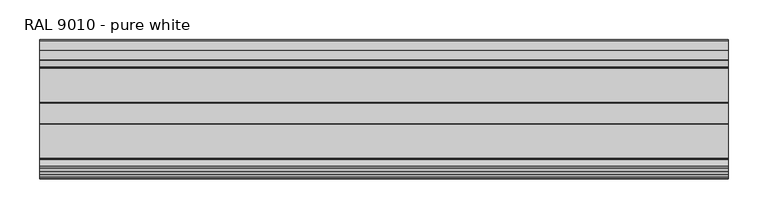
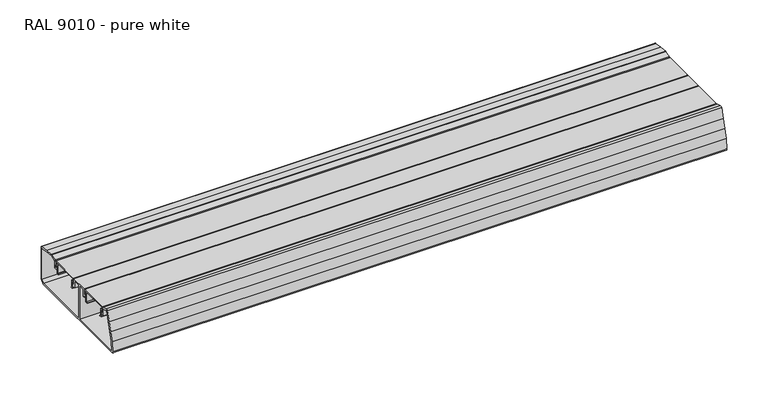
"""IFC4 building model written with IfcOpenShell, lengths in millimetres: proxy geometry, Electrical_Installations_Hager_GBD-Curved-Lid-End-Cap : RAL 9010 - pure white."""

from ifc_helpers import new_model, si_unit, point, frame, frame_2d, origin, place, context, project, spatial, polyline, circle_curve, trimmed, segment, composite_curve, outline, extrude, source, transform, mapped, element, save


def ral_9010_pure_white_6a0d687c(model_context):
    return source(origin(), model_context, "Body", "SweptSolid", [
        extrude(outline(composite_curve([segment(polyline([(-85.2368553, -25.0), (-6.25, -25.0), (-6.25, 25.0), (-15.95, 25.0), (-15.95, 14.96875), (-20.25, 14.96875), (-20.25, 18.7637258), (-19.25, 18.7637258), (-19.25, 16.3), (-17.75, 16.3), (-17.75, 27.0), (7.25, 27.0), (7.25, 16.3), (8.75, 16.3), (8.75, 18.7441115), (9.75, 18.7441115), (9.75, 14.5), (5.45, 14.5), (5.45, 25.0), (-4.25, 25.0), (-4.25, -25.0), (81.2473088, -25.0), (85.2, -21.0473088), (85.2, 25.0790901), (73.4084992, 26.7822965), (61.8792753, 27.7103781), (54.05, 25.1664923), (54.05, 14.5), (49.75, 14.5), (49.75, 18.7391101), (50.75, 18.7391101), (50.75, 16.3), (52.25, 16.3), (52.25, 26.2703589)]), True, "CONTINUOUS"), segment(trimmed(circle_curve(frame_2d((53.2542649, 26.2703589)), 1.0042649), [point((52.25, 26.2703589))], [point((52.94393, 27.2254715))], False, "CARTESIAN"), True, "CONTINUOUS"), segment(polyline([(52.94393, 27.2254715), (61.1647105, 29.896565)]), True, "CONTINUOUS"), segment(trimmed(circle_curve(frame_2d((61.8535718, 27.776468)), 2.229202), [point((61.1647105, 29.896565))], [point((62.0324399, 29.9984823))], False, "CARTESIAN"), True, "CONTINUOUS"), segment(polyline([(62.0324399, 29.9984823), (73.960524, 29.0382932), (85.7542621, 27.3347636)]), True, "CONTINUOUS"), segment(trimmed(circle_curve(frame_2d((85.4630616, 25.3187476)), 2.0369384), [point((85.7542621, 27.3347636))], [point((87.5, 25.3187476))], False, "CARTESIAN"), True, "CONTINUOUS"), segment(polyline([(87.5, 25.3187476), (87.5, -22.0), (82.5, -27.0), (-85.4371356, -27.0)]), True, "CONTINUOUS"), segment(trimmed(circle_curve(frame_2d((-85.4371356, -24.9109785)), 2.0890215), [point((-85.4371356, -27.0))], [point((-87.5045544, -24.6113283))], False, "CARTESIAN"), True, "CONTINUOUS"), segment(polyline([(-87.5045544, -24.6113283), (-85.4928777, -10.7318848), (-82.665273, 2.5001298), (-78.9366987, 15.5032139), (-74.2325269, 28.6175358)]), True, "CONTINUOUS"), segment(trimmed(circle_curve(frame_2d((-72.2816269, 27.9177383)), 2.0726137), [point((-74.2325269, 28.6175358))], [point((-71.641154, 29.8889111))], False, "CARTESIAN"), True, "CONTINUOUS"), segment(polyline([(-71.641154, 29.8889111), (-63.6327057, 27.2868085)]), True, "CONTINUOUS"), segment(trimmed(circle_curve(frame_2d((-63.9575866, 26.286928)), 1.0513366), [point((-63.6327057, 27.2868085))], [point((-62.90625, 26.286928))], False, "CARTESIAN"), True, "CONTINUOUS"), segment(polyline([(-62.90625, 26.286928), (-62.90625, 16.3), (-61.25, 16.3), (-61.25, 18.7177382), (-60.25, 18.7177382), (-60.25, 14.96875), (-64.55, 14.96875), (-64.55, 25.1664923), (-72.1420805, 27.6333088), (-76.7464574, 14.7971958), (-80.4325779, 1.9421659), (-83.2276507, -11.1376133), (-85.2368553, -25.0)]), True, "CONTINUOUS")], self_intersect=False)), frame((0.0, 0.0, 0.0), z_axis=(1.0, 0.0, 0.0), x_axis=(0.0, 1.0, 0.0)), (0.0, 0.0, 1.0), 863.9588891),
        extrude(outline(composite_curve([segment(polyline([(-19.317297, 25.7013932), (-61.217297, 25.7013932), (-61.217297, 22.4013932), (-57.767297, 22.4013932), (-57.767297, 10.8013932), (-55.867297, 10.8013932), (-55.867297, 10.0013932), (-58.767297, 10.0013932), (-58.767297, 21.4013932), (-61.5204385, 21.4013932), (-61.5204385, 17.0930522), (-62.5219845, 17.0930522), (-62.5219845, 26.2097868)]), True, "CONTINUOUS"), segment(trimmed(circle_curve(frame_2d((-61.6120226, 26.2097868)), 0.9099619), [point((-62.5219845, 26.2097868))], [point((-61.6120226, 27.1197487))], False, "CARTESIAN"), True, "CONTINUOUS"), segment(polyline([(-61.6120226, 27.1197487), (-19.1379774, 27.1197487)]), True, "CONTINUOUS"), segment(trimmed(circle_curve(frame_2d((-19.1379774, 26.1115683)), 1.0081804), [point((-19.1379774, 27.1197487))], [point((-18.129797, 26.1115683))], False, "CARTESIAN"), True, "CONTINUOUS"), segment(polyline([(-18.129797, 26.1115683), (-18.129797, 17.0930522), (-19.0141556, 17.0930522), (-19.0141556, 21.4013932), (-21.767297, 21.4013932), (-21.767297, 10.0013932), (-24.667297, 10.0013932), (-24.667297, 10.8013932), (-22.767297, 10.8013932), (-22.767297, 22.4013932), (-19.317297, 22.4013932), (-19.317297, 25.7013932)]), True, "CONTINUOUS")], self_intersect=False)), frame((0.0, 0.0, 0.0), z_axis=(1.0, 0.0, 0.0), x_axis=(0.0, 1.0, 0.0)), (0.0, 0.0, 1.0), 863.9588891),
        extrude(outline(composite_curve([segment(polyline([(50.7405963, 25.7013932), (8.8405963, 25.7013932), (8.8405963, 22.4013932), (12.2905963, 22.4013932), (12.2905963, 10.8013932), (14.1905963, 10.8013932), (14.1905963, 10.0013932), (11.2905963, 10.0013932), (11.2905963, 21.4013932), (8.5374548, 21.4013932), (8.5374548, 17.0930522), (7.5359088, 17.0930522), (7.5359088, 26.2097868)]), True, "CONTINUOUS"), segment(trimmed(circle_curve(frame_2d((8.4458707, 26.2097868)), 0.9099619), [point((7.5359088, 26.2097868))], [point((8.4458707, 27.1197487))], False, "CARTESIAN"), True, "CONTINUOUS"), segment(polyline([(8.4458707, 27.1197487), (50.9199159, 27.1197487)]), True, "CONTINUOUS"), segment(trimmed(circle_curve(frame_2d((50.9199159, 26.1115683)), 1.0081804), [point((50.9199159, 27.1197487))], [point((51.9280963, 26.1115683))], False, "CARTESIAN"), True, "CONTINUOUS"), segment(polyline([(51.9280963, 26.1115683), (51.9280963, 17.0930522), (51.0437378, 17.0930522), (51.0437378, 21.4013932), (48.2905963, 21.4013932), (48.2905963, 10.0013932), (45.3905963, 10.0013932), (45.3905963, 10.8013932), (47.2905963, 10.8013932), (47.2905963, 22.4013932), (50.7405963, 22.4013932), (50.7405963, 25.7013932)]), True, "CONTINUOUS")], self_intersect=False)), frame((0.0, 0.0, 0.0), z_axis=(1.0, 0.0, 0.0), x_axis=(0.0, 1.0, 0.0)), (0.0, 0.0, 1.0), 863.9588891),
    ])


if __name__ == "__main__":
    model = new_model("IFC4")
    model_context = context("Model", 3, world=origin())
    ifc_project = project(units=[si_unit("LENGTHUNIT", "METRE", prefix="MILLI")], contexts=[model_context])
    site = spatial("IfcSite", under=ifc_project)
    building = spatial("IfcBuilding", under=site)
    placement = place(None, origin())
    ral_9010_pure_white_shape = ral_9010_pure_white_6a0d687c(model_context)
    element("IfcBuildingElementProxy", 1, Name="Electrical_Installations_Hager_GBD-Curved-Lid-End-Cap : RAL 9010 - pure white", ObjectType="Electrical_Installations_Hager_GBD-Curved-Lid-End-Cap : RAL 9010 - pure white", at=placement, inside=building, context=model_context, shape_type="MappedRepresentation", body=[
        mapped(ral_9010_pure_white_shape, transform((0.0, 0.0, 0.0), x_axis=(1.0, 0.0, 0.0), y_axis=(0.0, 1.0, 0.0), z_axis=(0.0, 0.0, 1.0))),
    ])
    save(model, "model.ifc")
